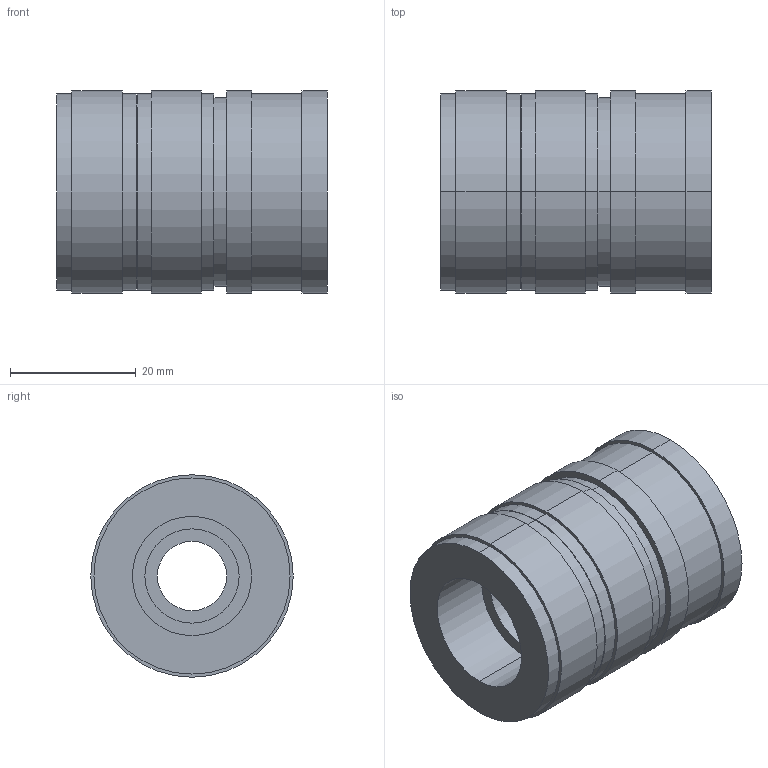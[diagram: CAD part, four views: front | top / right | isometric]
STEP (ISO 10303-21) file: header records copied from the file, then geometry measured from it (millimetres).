
FILE_DESCRIPTION (( 'STEP AP214' ), '1' );
FILE_NAME ('0000003195.STEP', '2015-11-24T08:48:08', ( 'HP' ), ( 'Hewlett-Packard Company' ), 'SwSTEP 2.0', 'SolidWorks 2014', '' );
FILE_SCHEMA (( 'AUTOMOTIVE_DESIGN' ));
Length unit declared in the file: millimetre
Products named in the file (1): 0000003195
Bounding box: 43 x 32.2 x 32.2 mm (x, y, z)
Volume: 23741.2 mm3; surface area: 10273.4 mm2
Topology: 5 solids, 5 shells, 100 faces, 194 edges, 122 vertices
Faces by surface type: cylinder 52, plane 30, torus 16, cone 2
Entity records: 3032 total; most frequent: CARTESIAN_POINT 541, DIRECTION 526, ORIENTED_EDGE 388, AXIS2_PLACEMENT_3D 235, EDGE_CURVE 194, CIRCLE 134, EDGE_LOOP 122, VERTEX_POINT 122
